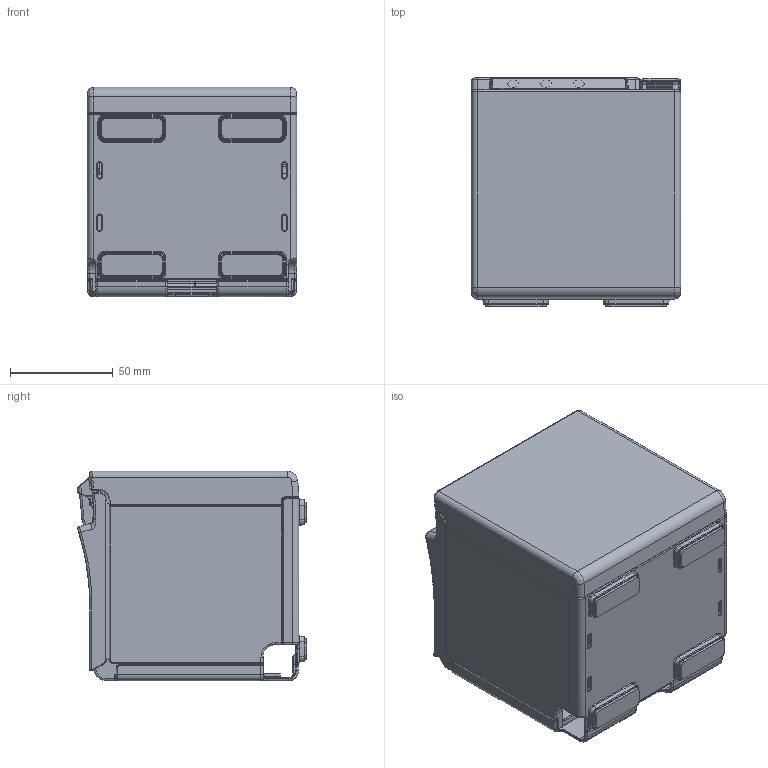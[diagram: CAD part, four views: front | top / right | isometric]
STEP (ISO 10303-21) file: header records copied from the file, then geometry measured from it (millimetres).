
FILE_DESCRIPTION((''),'2;1');
FILE_NAME('TM-M10_TOP_CLOSE_SW','2025-01-23T11:08:27',('0092109'),(''),'CREO PARAMETRIC BY PTC INC, 2022281','CREO PARAMETRIC BY PTC INC, 2022281','');
FILE_SCHEMA(('AUTOMOTIVE_DESIGN { 1 0 10303 214 1 1 1 1 }'));
Products named in the file (1): TM-M10_TOP_CLOSE_SW
Bounding box: 102 x 111.78 x 102 mm (x, y, z)
Surface area: 149598 mm2 (no closed solid volume)
Topology: 0 solids, 13 shells, 2436 faces, 6722 edges, 4258 vertices
Faces by surface type: plane 1225, cylinder 777, torus 261, bspline 103, cone 43, sphere 26, extrusion 1
Entity records: 86076 total; most frequent: CARTESIAN_POINT 24019, DIRECTION 12942, ORIENTED_EDGE 12826, EDGE_CURVE 6722, VECTOR 4382, LINE 4381, AXIS2_PLACEMENT_3D 4280, VERTEX_POINT 4258
